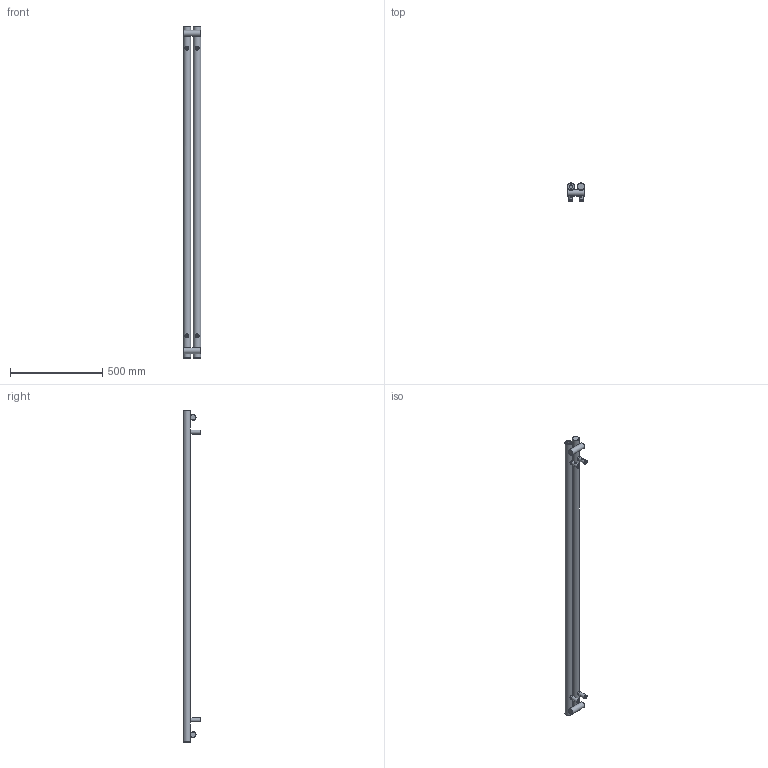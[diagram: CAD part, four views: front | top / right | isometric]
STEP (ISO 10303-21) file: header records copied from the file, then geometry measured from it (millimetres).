
FILE_DESCRIPTION(/* description */ (''),/* implementation_level */ '2;1');
FILE_NAME(/* name */ 'Z:\R\G\P\RGP116 - Grzejniki Geyser\Work\Inventor\Circolo (Rolo V, Rolo H)\ROLO-ROOM\Marketing\Zaokrąglone\WGROR180009-SX-CK-(Z).stp',/* time_stamp */ '2024-01-19T11:45:49+01:00',/* author */ ('NowAd'),/* organization */ (''),/* preprocessor_version */ 'ST-DEVELOPER v17.2',/* originating_system */ 'Autodesk Inventor 2019',/* authorisation */ '');
FILE_SCHEMA (('AUTOMOTIVE_DESIGN { 1 0 10303 214 3 1 1 }'));
Length unit declared in the file: millimetre
Products named in the file (3): WGROR180009-SX-CK-(Z); PGROR180009-SX-CK-(K); CK-V-fi40 marketing
Assembly tree (5 placements, depth 2):
  WGROR180009-SX-CK-(Z)
    PGROR180009-SX-CK-(K)
    CK-V-fi40 marketing  x4
Bounding box: 95 x 96.5 x 1800 mm (x, y, z)
Volume: 4716969.6 mm3; surface area: 510486 mm2
Topology: 5 solids, 5 shells, 298 faces, 759 edges, 508 vertices
Faces by surface type: plane 127, cylinder 71, cone 60, torus 36, bspline 4
Full cylindrical faces by diameter (mm): 4.134 x4, 4.48 x4, 6.4 x4, 10 x4, 12 x4, 15.834 x4, 16 x4, 18.631 x3, 22 x4, 32 x2, 40 x2
Entity records: 4881 total; most frequent: CARTESIAN_POINT 2050, DIRECTION 596, ORIENTED_EDGE 556, EDGE_CURVE 278, AXIS2_PLACEMENT_3D 262, VERTEX_POINT 190, EDGE_LOOP 142, CIRCLE 135
